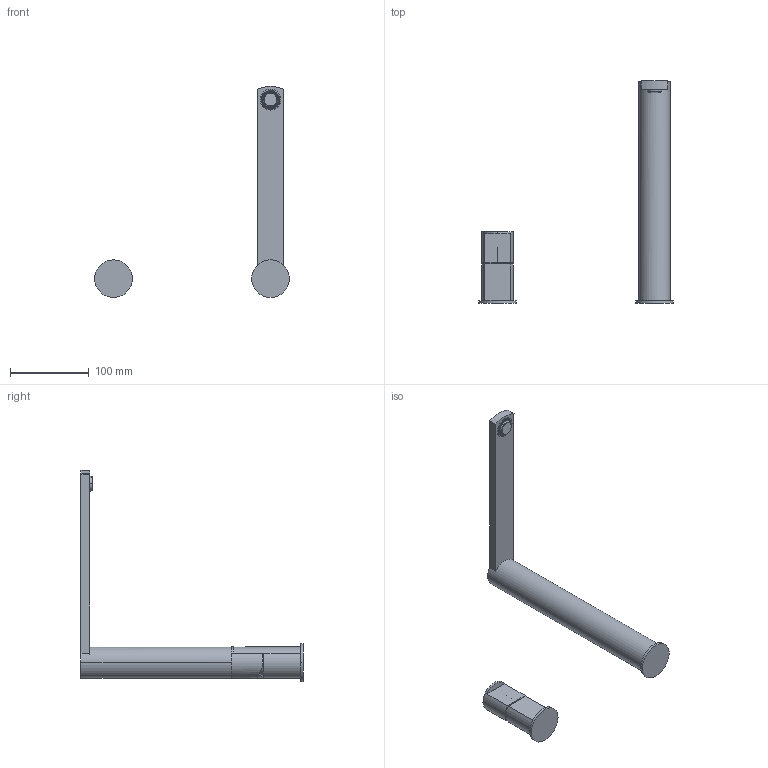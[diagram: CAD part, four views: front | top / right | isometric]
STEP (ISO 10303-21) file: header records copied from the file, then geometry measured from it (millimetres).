
FILE_DESCRIPTION((''),'2;1');
FILE_NAME('89058A21_SW0001','2020-06-18T16:40:52',('carloff'),(''),'CREO PARAMETRIC BY PTC INC, 2018100','CREO PARAMETRIC BY PTC INC, 2018100','');
FILE_SCHEMA(('CONFIG_CONTROL_DESIGN'));
Length unit declared in the file: millimetre
Products named in the file (1): 89058A21_SW0001
Bounding box: 247.91 x 283 x 268.85 mm (x, y, z)
Volume: 181065.9 mm3; surface area: 135158.6 mm2
Topology: 2 solids, 2 shells, 3060 faces, 8001 edges, 5326 vertices
Faces by surface type: plane 2497, cone 421, cylinder 120, bspline 10, sphere 8, torus 4
Entity records: 108787 total; most frequent: CARTESIAN_POINT 42780, ORIENTED_EDGE 15998, DIRECTION 9494, EDGE_CURVE 7999, VERTEX_POINT 5326, B_SPLINE_CURVE_WITH_KNOTS 4922, EDGE_LOOP 3449, AXIS2_PLACEMENT_3D 3367
